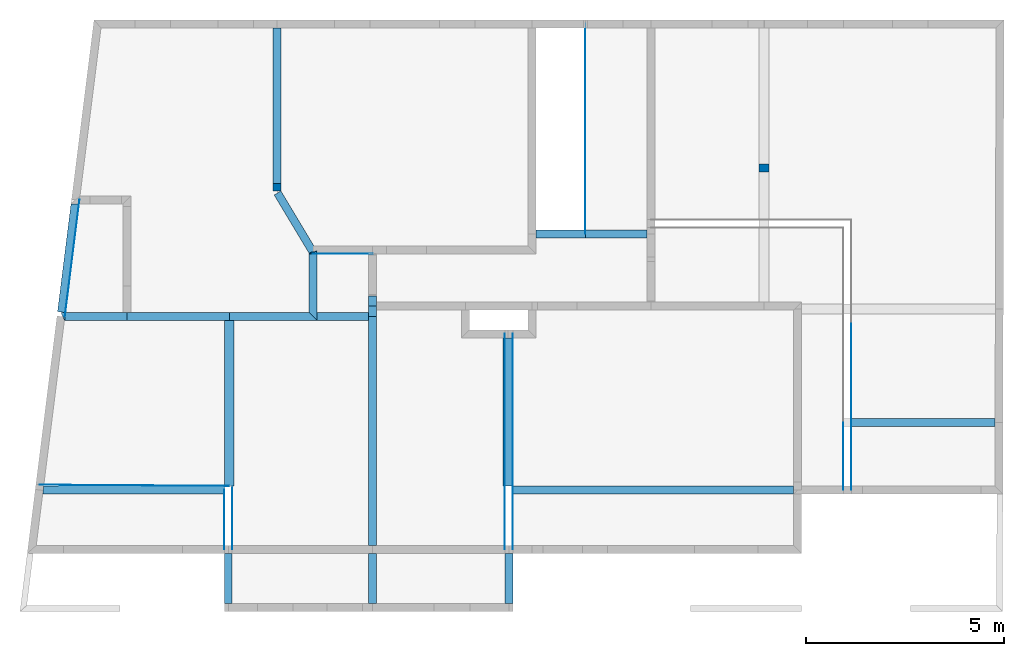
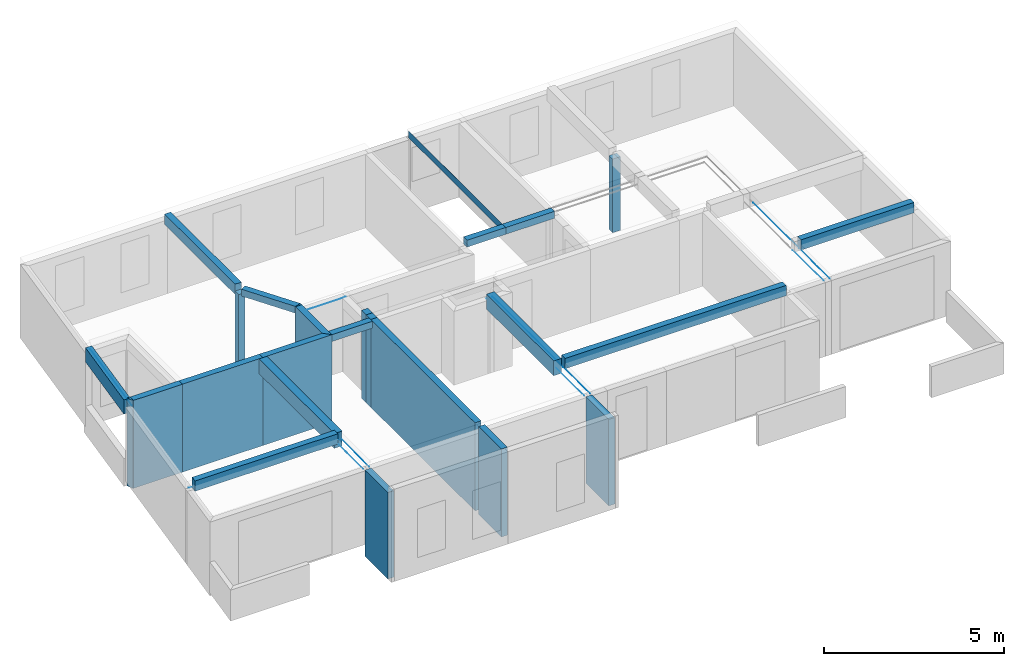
# One storey, part 1 of 8: 35 beams, 2 columns.
"""IFC2X3 building model written with IfcOpenShell, lengths in metres."""

from ifc_helpers import new_model, si_unit, direction, frame, origin_with_axes, origin_2d, place, context, subcontext, project, spatial, polyline, rectangle, outline, extrude, material, type_object, element, save


model = new_model("IFC2X3")

# Units and contexts
model_context = context("Model", 3, precision=0.0001, world=origin_with_axes(), true_north=direction((0.0, 1.0)))
plan_context = context("Plan", 2, precision=0.0001, world=origin_with_axes(), true_north=direction((0.0, 1.0)))
body_context = subcontext(model_context, "Body", "Model", "MODEL_VIEW")
ifc_project = project(units=[si_unit("MASSUNIT", "GRAM", prefix="KILO"), si_unit("AREAUNIT", "SQUARE_METRE"), si_unit("LENGTHUNIT", "METRE"), si_unit("VOLUMEUNIT", "CUBIC_METRE")], contexts=[plan_context, model_context])

# Site, building, storey
site_placement = place(None, origin_with_axes())
site = spatial("IfcSite", under=ifc_project, at=site_placement, Name="$", CompositionType="ELEMENT")
building_placement = place(site_placement, origin_with_axes())
building = spatial("IfcBuilding", under=site, at=building_placement, Name="Classeur ENS Ensemble", CompositionType="ELEMENT")
storey_placement = place(building_placement, frame((-20.30778888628, -1.812671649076, 3.3), z_axis=(0.0, 0.0, 1.0), x_axis=(1.0, 0.0, 0.0)))
storey = spatial("IfcBuildingStorey", under=building, at=storey_placement, Name="002 R+1", CompositionType="ELEMENT", Elevation=3.3)

# Columns
ifc_material = material(Name="Default material")
column_type = type_object("IfcColumnType", PredefinedType="COLUMN")
column_1_placement = place(storey_placement, frame((37.23321886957, -1.937325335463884, 0.0), z_axis=(0.0, 0.0, 1.0), x_axis=(1.0, 0.0, 0.0)))
element("IfcColumn", 1, at=column_1_placement, inside=storey, type_object=column_type, material=ifc_material, Name="Poteau BA", context=body_context, shape_type="SweptSolid", held_by="IfcProductRepresentation", body=[
    extrude(rectangle(XDim=0.25, YDim=0.2000000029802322, at=origin_2d()), origin_with_axes(), (0.0, 0.0, 1.0), 2.5),
])
column_2_placement = place(storey_placement, frame((24.94339579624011, -2.427468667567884, 0.0), z_axis=(0.0, 0.0, 1.0), x_axis=(1.0, 0.0, 0.0)))
element("IfcColumn", 2, at=column_2_placement, inside=storey, type_object=column_type, material=ifc_material, Name="Poteau BA", context=body_context, shape_type="SweptSolid", held_by="IfcProductRepresentation", body=[
    extrude(rectangle(XDim=0.2000000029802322, YDim=0.2000000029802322, at=origin_2d()), origin_with_axes(), (0.0, 0.0, 1.0), 2.5),
])

# Beams
beam_type = type_object("IfcBeamType", PredefinedType="BEAM")
beam_1_placement = place(storey_placement, frame((19.4901496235, -5.687325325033, -0.25), z_axis=(0.0, 0.0, 1.0), x_axis=(1.0, 0.0, 0.0)))
element("IfcBeam", 3, at=beam_1_placement, inside=storey, type_object=beam_type, material=ifc_material, Name="poutre voile BA 20 cm", context=body_context, shape_type="SweptSolid", held_by="IfcProductRepresentation", body=[
    extrude(outline(polyline([(0.0, 0.1000000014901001), (0.0, 0.1000000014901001), (0.0, 0.1000000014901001), (0.1007801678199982, 0.1000000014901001), (0.1007801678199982, 0.1000000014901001), (0.1007801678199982, 0.1000000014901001), (0.1007801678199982, -0.1000000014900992), (0.1007801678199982, -0.1000000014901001), (0.1007801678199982, -0.1000000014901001), (0.08826448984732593, -0.1000000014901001), (0.08826448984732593, -0.1000000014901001), (0.08826448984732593, -0.1000000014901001), (0.0, 0.1000000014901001)])), origin_with_axes(), (0.0, 0.0, 1.0), 2.980000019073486),
])
beam_2_placement = place(storey_placement, frame((25.85101575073, -5.687325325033, -0.25), z_axis=(0.0, 0.0, 1.0), x_axis=(8.485787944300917e-05, 0.9999999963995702, 0.0)))
element("IfcBeam", 4, at=beam_2_placement, inside=storey, type_object=beam_type, material=ifc_material, Name="poutre voile BA 20 cm", context=body_context, shape_type="SweptSolid", held_by="IfcProductRepresentation", body=[
    extrude(outline(polyline([(0.09999151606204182, 0.1000000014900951), (0.09999151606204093, 0.1000000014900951), (0.09999151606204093, 0.1000000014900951), (1.580000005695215, 0.1000000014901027), (1.580000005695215, 0.1000000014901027), (1.580000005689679, 0.1000000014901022), (1.580000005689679, -0.1000000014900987), (1.580000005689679, -0.1000000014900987), (1.580000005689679, -0.1000000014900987), (0.1000084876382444, -0.1000000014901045), (0.1000084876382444, -0.1000000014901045), (-0.09999151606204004, -0.1000000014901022), (0.09999151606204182, 0.1000000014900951)])), origin_with_axes(), (0.0, 0.0, 1.0), 2.980000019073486),
])
beam_3_placement = place(storey_placement, frame((27.35339579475, -13.03232532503, -0.25), z_axis=(0.0, 0.0, 1.0), x_axis=(0.0, 1.0, 0.0)))
element("IfcBeam", 5, at=beam_3_placement, inside=storey, type_object=beam_type, material=ifc_material, Name="poutre voile BA 20 cm", context=body_context, shape_type="SweptSolid", held_by="IfcProductRepresentation", body=[
    extrude(outline(polyline([(0.1000000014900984, 0.1000000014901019), (0.1000000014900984, 0.1000000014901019), (0.1000000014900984, 0.1000000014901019), (1.565000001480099, 0.1000000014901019), (1.565000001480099, 0.1000000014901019), (1.364999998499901, 0.1000000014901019), (1.364999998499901, -0.1000000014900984), (1.565000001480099, -0.1000000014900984), (1.565000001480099, -0.1000000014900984), (0.1000000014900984, -0.1000000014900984), (0.1000000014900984, -0.1000000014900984), (0.1000000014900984, -0.1000000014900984), (0.1000000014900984, 0.1000000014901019)])), origin_with_axes(), (0.0, 0.0, 1.0), 2.980000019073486),
])
beam_4_placement = place(storey_placement, frame((27.35339579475, -11.56732532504, -0.25), z_axis=(0.0, 0.0, 1.0), x_axis=(0.0, 1.0, 0.0)))
element("IfcBeam", 6, at=beam_4_placement, inside=storey, type_object=beam_type, material=ifc_material, Name="poutre voile BA 20 cm", context=body_context, shape_type="SweptSolid", held_by="IfcProductRepresentation", body=[
    extrude(outline(polyline([(0.1000000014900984, 0.1000000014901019), (-0.1000000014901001, 0.1000000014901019), (-0.1000000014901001, 0.1000000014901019), (5.779999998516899, 0.1000000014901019), (5.779999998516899, 0.1000000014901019), (5.880000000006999, 0.1000000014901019), (5.880000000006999, -0.1000000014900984), (5.880000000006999, -0.1000000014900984), (5.880000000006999, -0.1000000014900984), (-0.1000000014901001, -0.1000000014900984), (-0.1000000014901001, -0.1000000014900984), (0.1000000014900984, -0.1000000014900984), (0.1000000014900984, 0.1000000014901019)])), origin_with_axes(), (0.0, 0.0, 1.0), 2.980000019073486),
])
for number, where, z_axis, x_axis, name in (
    (7, (23.71339579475, -13.03232532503, -0.4000000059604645), (0.0, 0.0, 1.0), (0.0, 1.0, 0.0), "poutre voile BA 20 cm"),
    (8, (30.79339579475, -13.03232532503, -0.4000000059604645), (0.0, 0.0, 1.0), (0.0, 1.0, 0.0), "poutre voile BA 20 cm"),
):
    element("IfcBeam", number, at=place(storey_placement, frame(where, z_axis=z_axis, x_axis=x_axis)), inside=storey, type_object=beam_type, material=ifc_material, Name=name, context=body_context, shape_type="SweptSolid", held_by="IfcProductRepresentation", body=[
        extrude(outline(polyline([(0.1000000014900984, 0.1000000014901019), (0.1000000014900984, 0.1000000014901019), (0.1000000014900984, 0.1000000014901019), (1.364999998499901, 0.1000000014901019), (1.364999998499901, 0.1000000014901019), (1.364999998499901, 0.1000000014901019), (1.364999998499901, -0.1000000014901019), (1.364999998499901, -0.1000000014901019), (1.364999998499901, -0.1000000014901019), (0.1000000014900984, -0.1000000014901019), (0.1000000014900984, -0.1000000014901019), (0.1000000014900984, -0.1000000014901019), (0.1000000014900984, 0.1000000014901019)])), origin_with_axes(), (0.0, 0.0, 1.0), 2.930000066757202),
    ])
beam_5_placement = place(storey_placement, frame((19.59092979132, -5.687325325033, 2.5), z_axis=(0.0, 0.0, 1.0), x_axis=(0.1241879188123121, 0.9922587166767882, 0.0)))
element("IfcBeam", 9, at=beam_5_placement, inside=storey, type_object=beam_type, material=ifc_material, Name="poutre fictive 250", context=body_context, shape_type="SweptSolid", held_by="IfcProductRepresentation", body=[
    extrude(outline(polyline([(-8.721322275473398e-16, 0.001000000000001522), (-8.721322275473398e-16, 0.001000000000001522), (-8.721322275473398e-16, 0.001000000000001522), (2.962936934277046, 0.001000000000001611), (2.962936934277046, 0.001000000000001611), (2.962936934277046, 0.001000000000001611), (2.962936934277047, -0.000999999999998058), (2.962936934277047, -0.000999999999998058), (2.962936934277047, -0.000999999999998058), (4.309432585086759e-16, -0.0009999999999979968), (4.309432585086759e-16, -0.0009999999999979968), (4.309432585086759e-16, -0.0009999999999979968), (-8.721322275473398e-16, 0.001000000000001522)])), origin_with_axes(), (0.0, 0.0, 1.0), 0.001),
])
beam_6_placement = place(storey_placement, frame((19.59092979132, -5.687325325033, -0.25), z_axis=(0.0, 0.0, 1.0), x_axis=(1.0, 0.0, 0.0)))
element("IfcBeam", 10, at=beam_6_placement, inside=storey, type_object=beam_type, material=ifc_material, Name="poutre voile BA 20 cm", context=body_context, shape_type="SweptSolid", held_by="IfcProductRepresentation", body=[
    extrude(outline(polyline([(0.0, 0.1000000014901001), (0.0, 0.1000000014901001), (0.0, 0.1000000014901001), (1.563306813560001, 0.1000000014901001), (1.563306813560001, 0.1000000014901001), (1.563306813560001, 0.1000000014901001), (1.563306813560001, -0.1000000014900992), (1.563306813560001, -0.1000000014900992), (1.563306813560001, -0.1000000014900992), (0.0, -0.1000000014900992), (0.0, -0.1000000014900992), (0.0, -0.1000000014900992), (0.0, 0.1000000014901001)])), origin_with_axes(), (0.0, 0.0, 1.0), 2.980000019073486),
])
beam_7_placement = place(storey_placement, frame((21.15423660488, -5.687325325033, -0.25), z_axis=(0.0, 0.0, 1.0), x_axis=(1.0, 0.0, 0.0)))
element("IfcBeam", 11, at=beam_7_placement, inside=storey, type_object=beam_type, material=ifc_material, Name="poutre voile BA 20 cm", context=body_context, shape_type="SweptSolid", held_by="IfcProductRepresentation", body=[
    extrude(outline(polyline([(0.0, 0.1000000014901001), (0.0, 0.1000000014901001), (0.0, 0.1000000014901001), (2.584159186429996, 0.1000000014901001), (2.584159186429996, 0.1000000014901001), (2.584159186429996, 0.1000000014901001), (2.584159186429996, -0.1000000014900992), (2.459159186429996, -0.1000000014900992), (2.459159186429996, -0.1000000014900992), (0.0, -0.1000000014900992), (0.0, -0.1000000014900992), (0.0, -0.1000000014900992), (0.0, 0.1000000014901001)])), origin_with_axes(), (0.0, 0.0, 1.0), 2.980000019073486),
])
beam_8_placement = place(storey_placement, frame((19.50361394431, -5.579745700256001, 2.200000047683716), z_axis=(0.0, 0.0, 1.0), x_axis=(0.1241879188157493, 0.992258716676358, 0.0)))
element("IfcBeam", 12, at=beam_8_placement, inside=storey, type_object=beam_type, material=ifc_material, Name="poutre BA 20 x 48", context=body_context, shape_type="SweptSolid", held_by="IfcProductRepresentation", body=[
    extrude(outline(polyline([(4.371503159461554e-16, 0.100000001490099), (4.371503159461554e-16, 0.100000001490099), (4.371503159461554e-16, 0.100000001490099), (2.741222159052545, 0.1000000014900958), (2.741222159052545, 0.1000000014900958), (2.741222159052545, 0.1000000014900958), (2.766253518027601, -0.1000000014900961), (2.766253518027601, -0.1000000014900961), (2.766253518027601, -0.1000000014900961), (4.440892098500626e-16, -0.1000000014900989), (4.440892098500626e-16, -0.1000000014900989), (4.440892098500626e-16, -0.1000000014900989), (4.371503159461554e-16, 0.100000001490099)])), origin_with_axes(), (0.0, 0.0, 1.0), 0.4799999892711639),
])
beam_9_placement = place(storey_placement, frame((18.94209874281, -10.0662397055, 2.5), z_axis=(0.0, 0.0, 1.0), x_axis=(0.9999999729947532, -0.0002324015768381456, 0.0)))
element("IfcBeam", 13, at=beam_9_placement, inside=storey, type_object=beam_type, material=ifc_material, Name="poutre BA 20 x 35", context=body_context, shape_type="SweptSolid", held_by="IfcProductRepresentation", body=[
    extrude(outline(polyline([(0.1132693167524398, 0.1000000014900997), (0.1132693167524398, 0.1000000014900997), (0.1132693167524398, 0.1000000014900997), (4.671297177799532, 0.1000000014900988), (4.671297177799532, 0.1000000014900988), (4.671297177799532, 0.1000000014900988), (4.671297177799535, -0.1000000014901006), (4.671297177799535, -0.1000000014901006), (4.671297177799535, -0.1000000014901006), (0.08828516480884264, -0.1000000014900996), (0.08828516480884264, -0.1000000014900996), (0.08828516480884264, -0.1000000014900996), (0.1132693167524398, 0.1000000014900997)])), origin_with_axes(), (0.0, 0.0, 1.0), 0.3499999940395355),
])
beam_10_placement = place(storey_placement, frame((30.89339579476, -10.06732532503, 2.5), z_axis=(0.0, 0.0, 1.0), x_axis=(0.9999999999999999, 0.0, 0.0)))
element("IfcBeam", 14, at=beam_10_placement, inside=storey, type_object=beam_type, material=ifc_material, Name="poutre BA 20 x 35", context=body_context, shape_type="SweptSolid", held_by="IfcProductRepresentation", body=[
    extrude(outline(polyline([(0.0, 0.1000000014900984), (0.0, 0.1000000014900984), (0.0, 0.1000000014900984), (7.089999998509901, 0.1000000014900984), (7.089999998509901, 0.1000000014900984), (7.089999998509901, 0.1000000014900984), (7.089999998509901, -0.1000000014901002), (7.089999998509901, -0.1000000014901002), (7.089999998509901, -0.1000000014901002), (0.0, -0.1000000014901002), (0.0, -0.1000000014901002), (0.0, -0.1000000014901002), (0.0, 0.1000000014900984)])), origin_with_axes(), (0.0, 0.0, 1.0), 0.3499999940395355),
])
beam_11_placement = place(storey_placement, frame((23.61339579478, -11.56732532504, 2.5), z_axis=(0.0, 0.0, 1.0), x_axis=(-2.133333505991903e-10, 1.0, 0.0)))
element("IfcBeam", 15, at=beam_11_placement, inside=storey, type_object=beam_type, material=ifc_material, Name="poutre fictive 250", context=body_context, shape_type="SweptSolid", held_by="IfcProductRepresentation", body=[
    extrude(outline(polyline([(1.705298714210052e-16, 0.001000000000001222), (1.705298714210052e-16, 0.001000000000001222), (1.705298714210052e-16, 0.001000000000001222), (1.50000000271, 0.001000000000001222), (1.50000000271, 0.001000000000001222), (1.50000000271, 0.001000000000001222), (1.500000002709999, -0.001000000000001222), (1.500000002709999, -0.001000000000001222), (1.500000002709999, -0.001000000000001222), (-1.946886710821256e-15, -0.001000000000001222), (-1.946886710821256e-15, -0.001000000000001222), (-1.946886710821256e-15, -0.001000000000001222), (1.705298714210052e-16, 0.001000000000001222)])), origin_with_axes(), (0.0, 0.0, 1.0), 0.001),
])
beam_12_placement = place(storey_placement, frame((30.89339579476, -11.56732532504, 2.5), z_axis=(0.0, 0.0, 1.0), x_axis=(0.0, 1.0, 0.0)))
element("IfcBeam", 16, at=beam_12_placement, inside=storey, type_object=beam_type, material=ifc_material, Name="poutre fictive 250", context=body_context, shape_type="SweptSolid", held_by="IfcProductRepresentation", body=[
    extrude(outline(polyline([(0.0, 0.001000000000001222), (0.0, 0.001000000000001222), (0.0, 0.001000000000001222), (1.500000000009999, 0.001000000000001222), (1.500000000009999, 0.001000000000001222), (1.500000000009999, 0.001000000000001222), (1.500000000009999, -0.0009999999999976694), (1.500000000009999, -0.0009999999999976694), (1.500000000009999, -0.0009999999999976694), (0.0, -0.0009999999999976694), (0.0, -0.0009999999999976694), (0.0, -0.0009999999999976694), (0.0, 0.001000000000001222)])), origin_with_axes(), (0.0, 0.0, 1.0), 0.001),
])
beam_13_placement = place(storey_placement, frame((39.43648670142, -10.06732532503, 2.5), z_axis=(0.0, 0.0, 1.0), x_axis=(0.0, 1.0, 0.0)))
element("IfcBeam", 17, at=beam_13_placement, inside=storey, type_object=beam_type, material=ifc_material, Name="poutre fictive 250", context=body_context, shape_type="SweptSolid", held_by="IfcProductRepresentation", body=[
    extrude(outline(polyline([(0.0, 0.001000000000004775), (0.0, 0.001000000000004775), (0.0, 0.001000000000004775), (1.700043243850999, 0.001000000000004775), (1.700043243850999, 0.001000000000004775), (1.700043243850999, 0.001000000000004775), (1.700043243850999, -0.0009999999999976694), (1.700043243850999, -0.0009999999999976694), (1.700043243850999, -0.0009999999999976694), (0.0, -0.0009999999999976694), (0.0, -0.0009999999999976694), (0.0, -0.0009999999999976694), (0.0, 0.001000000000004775)])), origin_with_axes(), (0.0, 0.0, 1.0), 0.001),
])
beam_14_placement = place(storey_placement, frame((39.43648670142, -8.367282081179, 2.5), z_axis=(0.0, 0.0, 1.0), x_axis=(1.0, 0.0, 0.0)))
element("IfcBeam", 18, at=beam_14_placement, inside=storey, type_object=beam_type, material=ifc_material, Name="poutre BA 20 x 35", context=body_context, shape_type="SweptSolid", held_by="IfcProductRepresentation", body=[
    extrude(outline(polyline([(0.0, 0.1000000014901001), (0.0, 0.1000000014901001), (0.0, 0.1000000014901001), (3.6270389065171, 0.1000000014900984), (3.6270389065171, 0.1000000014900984), (3.6270389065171, 0.1000000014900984), (3.626530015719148, -0.1000000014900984), (3.626530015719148, -0.1000000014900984), (3.626530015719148, -0.1000000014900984), (0.0, -0.1000000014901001), (0.0, -0.1000000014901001), (0.0, -0.1000000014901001), (0.0, 0.1000000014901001)])), origin_with_axes(), (0.0, 0.0, 1.0), 0.3499999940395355),
])
beam_15_placement = place(storey_placement, frame((30.69339579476, -11.56732532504, 2.5), z_axis=(0.0, 0.0, 1.0), x_axis=(0.0, 1.0, 0.0)))
element("IfcBeam", 19, at=beam_15_placement, inside=storey, type_object=beam_type, material=ifc_material, Name="poutre fictive 250", context=body_context, shape_type="SweptSolid", held_by="IfcProductRepresentation", body=[
    extrude(outline(polyline([(0.0, 0.001000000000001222), (0.0, 0.001000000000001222), (0.0, 0.001000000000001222), (5.440000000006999, 0.001000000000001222), (5.440000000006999, 0.001000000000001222), (5.440000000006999, 0.001000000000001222), (5.440000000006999, -0.0009999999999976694), (5.440000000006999, -0.0009999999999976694), (5.440000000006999, -0.0009999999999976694), (0.0, -0.0009999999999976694), (0.0, -0.0009999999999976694), (0.0, -0.0009999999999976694), (0.0, 0.001000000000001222)])), origin_with_axes(), (0.0, 0.0, 1.0), 0.001),
])
beam_16_placement = place(storey_placement, frame((30.89339579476, -10.06732532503, 2.5), z_axis=(0.0, 0.0, 1.0), x_axis=(0.0, 1.0, 0.0)))
element("IfcBeam", 20, at=beam_16_placement, inside=storey, type_object=beam_type, material=ifc_material, Name="poutre fictive 250", context=body_context, shape_type="SweptSolid", held_by="IfcProductRepresentation", body=[
    extrude(outline(polyline([(0.0, 0.001000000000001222), (0.0, 0.001000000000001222), (0.0, 0.001000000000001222), (3.939999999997, 0.001000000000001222), (3.939999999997, 0.001000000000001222), (3.939999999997, 0.001000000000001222), (3.939999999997, -0.0009999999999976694), (3.939999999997, -0.0009999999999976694), (3.939999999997, -0.0009999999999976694), (0.0, -0.0009999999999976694), (0.0, -0.0009999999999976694), (0.0, -0.0009999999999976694), (0.0, 0.001000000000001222)])), origin_with_axes(), (0.0, 0.0, 1.0), 0.001),
])
beam_17_placement = place(storey_placement, frame((23.81339579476, -11.56732532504, 2.5), z_axis=(0.0, 0.0, 1.0), x_axis=(0.0, 1.0, 0.0)))
element("IfcBeam", 21, at=beam_17_placement, inside=storey, type_object=beam_type, material=ifc_material, Name="poutre fictive 250", context=body_context, shape_type="SweptSolid", held_by="IfcProductRepresentation", body=[
    extrude(outline(polyline([(0.0, 0.0009999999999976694), (0.0, 0.0009999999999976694), (0.0, 0.0009999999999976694), (1.600000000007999, 0.0009999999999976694), (1.600000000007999, 0.0009999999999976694), (1.600000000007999, 0.0009999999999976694), (1.600000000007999, -0.001000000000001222), (1.600000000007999, -0.001000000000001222), (1.600000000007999, -0.001000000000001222), (0.0, -0.001000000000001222), (0.0, -0.001000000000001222), (0.0, -0.001000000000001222), (0.0, 0.0009999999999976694)])), origin_with_axes(), (0.0, 0.0, 1.0), 0.001),
])
beam_18_placement = place(storey_placement, frame((18.9581646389, -9.937873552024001, 2.5), z_axis=(0.0, 0.0, 1.0), x_axis=(0.9999816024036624, -0.006065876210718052, 0.0)))
element("IfcBeam", 22, at=beam_18_placement, inside=storey, type_object=beam_type, material=ifc_material, Name="poutre fictive 250", context=body_context, shape_type="SweptSolid", held_by="IfcProductRepresentation", body=[
    extrude(outline(polyline([(3.052991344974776e-15, 0.0009999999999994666), (3.052991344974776e-15, 0.0009999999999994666), (3.052991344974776e-15, 0.0009999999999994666), (4.780319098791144, 0.0009999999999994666), (4.780319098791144, 0.0009999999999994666), (4.780319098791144, 0.0009999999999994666), (4.780319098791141, -0.0009999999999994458), (4.780319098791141, -0.0009999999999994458), (4.780319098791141, -0.0009999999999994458), (-3.063766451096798e-15, -0.0009999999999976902), (-3.063766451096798e-15, -0.0009999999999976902), (-3.063766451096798e-15, -0.0009999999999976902), (3.052991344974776e-15, 0.0009999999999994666)])), origin_with_axes(), (0.0, 0.0, 1.0), 0.001),
])
beam_19_placement = place(storey_placement, frame((39.23648670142, -10.06732532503, 2.5), z_axis=(0.0, 0.0, 1.0), x_axis=(0.0, 1.0, 0.0)))
element("IfcBeam", 23, at=beam_19_placement, inside=storey, type_object=beam_type, material=ifc_material, Name="poutre fictive 250", context=body_context, shape_type="SweptSolid", held_by="IfcProductRepresentation", body=[
    extrude(outline(polyline([(0.0, 0.0009999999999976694), (0.0, 0.0009999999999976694), (0.0, 0.0009999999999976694), (1.700043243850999, 0.0009999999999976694), (1.700043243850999, 0.0009999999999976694), (1.700043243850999, 0.0009999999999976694), (1.700043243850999, -0.0009999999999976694), (1.700043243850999, -0.0009999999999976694), (1.700043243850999, -0.0009999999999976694), (0.0, -0.0009999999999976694), (0.0, -0.0009999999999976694), (0.0, -0.0009999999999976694), (0.0, 0.0009999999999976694)])), origin_with_axes(), (0.0, 0.0, 1.0), 0.001),
])
beam_20_placement = place(storey_placement, frame((24.94339579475, -2.327468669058, 2.380000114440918), z_axis=(0.0, 0.0, 1.0), x_axis=(0.0, 1.0, 0.0)))
element("IfcBeam", 24, at=beam_20_placement, inside=storey, type_object=beam_type, material=ifc_material, Name="poutre BA 25 x 50", context=body_context, shape_type="SweptSolid", held_by="IfcProductRepresentation", body=[
    extrude(outline(polyline([(0.0, 0.1000000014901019), (0.0, 0.1000000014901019), (0.0, 0.1000000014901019), (3.9201433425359, 0.1000000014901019), (3.9201433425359, 0.1000000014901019), (3.9201433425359, 0.1000000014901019), (3.9201433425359, -0.1000000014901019), (3.9201433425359, -0.1000000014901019), (3.9201433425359, -0.1000000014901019), (0.0, -0.1000000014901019), (0.0, -0.1000000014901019), (0.0, -0.1000000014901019), (0.0, 0.1000000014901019)])), origin_with_axes(), (0.0, 0.0, 1.0), 0.3499999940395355),
])
beam_21_placement = place(storey_placement, frame((24.95763967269, -2.573906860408, 2.5), z_axis=(0.0, 0.0, 1.0), x_axis=(0.5143819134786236, -0.8575612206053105, 0.0)))
element("IfcBeam", 25, at=beam_21_placement, inside=storey, type_object=beam_type, material=ifc_material, Name="BN 23", context=body_context, shape_type="SweptSolid", held_by="IfcProductRepresentation", body=[
    extrude(outline(polyline([(-1.214306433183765e-15, 0.1000000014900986), (-1.214306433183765e-15, 0.1000000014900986), (-1.214306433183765e-15, 0.1000000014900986), (1.764758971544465, 0.100000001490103), (1.764758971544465, 0.100000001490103), (1.764758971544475, 0.1000000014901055), (1.709367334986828, -0.1000000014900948), (1.709367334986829, -0.1000000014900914), (1.709367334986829, -0.1000000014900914), (-9.922618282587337e-16, -0.1000000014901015), (-9.922618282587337e-16, -0.1000000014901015), (-9.922618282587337e-16, -0.1000000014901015), (-1.214306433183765e-15, 0.1000000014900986)])), origin_with_axes(), (0.0, 0.0, 1.0), 0.2300000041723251),
])
beam_22_placement = place(storey_placement, frame((39.43648670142, -8.367282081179, 2.5), z_axis=(0.0, 0.0, 1.0), x_axis=(0.0, 1.0, 0.0)))
element("IfcBeam", 26, at=beam_22_placement, inside=storey, type_object=beam_type, material=ifc_material, Name="poutre fictive 250", context=body_context, shape_type="SweptSolid", held_by="IfcProductRepresentation", body=[
    extrude(outline(polyline([(0.0, 0.001000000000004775), (0.0, 0.001000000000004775), (0.0, 0.001000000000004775), (2.540404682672, 0.001000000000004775), (2.540404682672, 0.001000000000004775), (2.540404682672, 0.001000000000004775), (2.540404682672, -0.0009999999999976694), (2.540404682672, -0.0009999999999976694), (2.540404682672, -0.0009999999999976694), (0.0, -0.0009999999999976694), (0.0, -0.0009999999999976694), (0.0, -0.0009999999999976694), (0.0, 0.001000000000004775)])), origin_with_axes(), (0.0, 0.0, 1.0), 0.001),
])
beam_23_placement = place(storey_placement, frame((31.38339579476, -3.607325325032, 2.5), z_axis=(0.0, 0.0, 1.0), x_axis=(1.0, 0.0, 0.0)))
element("IfcBeam", 27, at=beam_23_placement, inside=storey, type_object=beam_type, material=ifc_material, Name="BN 23", context=body_context, shape_type="SweptSolid", held_by="IfcProductRepresentation", body=[
    extrude(outline(polyline([(0.1000000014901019, 0.1000000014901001), (0.1000000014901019, 0.1000000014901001), (0.1000000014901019, 0.1000000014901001), (1.342573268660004, 0.1000000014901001), (1.342573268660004, 0.1000000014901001), (1.342573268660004, 0.1000000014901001), (1.342573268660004, -0.1000000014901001), (1.342573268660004, -0.1000000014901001), (1.342573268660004, -0.1000000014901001), (0.1000000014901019, -0.1000000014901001), (0.1000000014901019, -0.1000000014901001), (0.1000000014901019, -0.1000000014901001), (0.1000000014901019, 0.1000000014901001)])), origin_with_axes(), (0.0, 0.0, 1.0), 0.2300000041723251),
])
beam_24_placement = place(storey_placement, frame((27.35339579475, -5.427325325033, -0.25), z_axis=(0.0, 0.0, 1.0), x_axis=(0.0, 1.0, 0.0)))
element("IfcBeam", 28, at=beam_24_placement, inside=storey, type_object=beam_type, material=ifc_material, Name="poutre voile BA 20 cm", context=body_context, shape_type="SweptSolid", held_by="IfcProductRepresentation", body=[
    extrude(outline(polyline([(0.0, 0.1000000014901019), (0.0, 0.1000000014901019), (0.0, 0.1000000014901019), (0.2603052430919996, 0.1000000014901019), (0.2603052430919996, 0.1000000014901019), (0.2603052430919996, 0.1000000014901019), (0.2603052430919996, -0.1000000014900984), (0.2603052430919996, -0.1000000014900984), (0.2603052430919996, -0.1000000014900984), (0.0, -0.1000000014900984), (0.0, -0.1000000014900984), (0.0, -0.1000000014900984), (0.0, 0.1000000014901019)])), origin_with_axes(), (0.0, 0.0, 1.0), 2.980000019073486),
])
beam_25_placement = place(storey_placement, frame((32.72596906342, -3.607325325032, 2.5), z_axis=(0.0, 0.0, 1.0), x_axis=(1.754705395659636e-10, 1.0, 0.0)))
element("IfcBeam", 29, at=beam_25_placement, inside=storey, type_object=beam_type, material=ifc_material, Name="Poutre auto", context=body_context, shape_type="SweptSolid", held_by="IfcProductRepresentation", body=[
    extrude(outline(polyline([(-5.530167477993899e-17, 0.0009999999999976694), (-5.530167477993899e-17, 0.0009999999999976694), (-5.530167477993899e-17, 0.0009999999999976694), (5.3, 0.0009999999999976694), (5.3, 0.0009999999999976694), (5.3, 0.0009999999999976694), (5.300000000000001, -0.001000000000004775), (5.300000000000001, -0.001000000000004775), (5.300000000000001, -0.001000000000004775), (5.530167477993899e-17, -0.0009999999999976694), (5.530167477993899e-17, -0.0009999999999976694), (5.530167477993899e-17, -0.0009999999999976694), (-5.530167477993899e-17, 0.0009999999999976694)])), origin_with_axes(), (0.0, 0.0, 1.0), 0.2300000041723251),
])
beam_26_placement = place(storey_placement, frame((32.72596906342, -3.607325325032, 2.5), z_axis=(0.0, 0.0, 1.0), x_axis=(1.0, 0.0, 0.0)))
element("IfcBeam", 30, at=beam_26_placement, inside=storey, type_object=beam_type, material=ifc_material, Name="BN 23", context=body_context, shape_type="SweptSolid", held_by="IfcProductRepresentation", body=[
    extrude(outline(polyline([(0.0, 0.1000000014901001), (0.0, 0.1000000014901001), (0.0, 0.1000000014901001), (1.557426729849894, 0.1000000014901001), (1.557426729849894, 0.1000000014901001), (1.557426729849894, 0.1000000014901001), (1.557426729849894, -0.1000000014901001), (1.557426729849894, -0.1000000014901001), (1.557426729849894, -0.1000000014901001), (0.0, -0.1000000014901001), (0.0, -0.1000000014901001), (0.0, -0.1000000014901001), (0.0, 0.1000000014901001)])), origin_with_axes(), (0.0, 0.0, 1.0), 0.2300000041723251),
])
beam_27_placement = place(storey_placement, frame((25.85114982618, -4.107325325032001, 2.5), z_axis=(0.0, 0.0, 1.0), x_axis=(1.0, 0.0, 0.0)))
element("IfcBeam", 31, at=beam_27_placement, inside=storey, type_object=beam_type, material=ifc_material, Name="poutre fictive 250", context=body_context, shape_type="SweptSolid", held_by="IfcProductRepresentation", body=[
    extrude(outline(polyline([(0.0, 0.001000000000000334), (0.0, 0.001000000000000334), (0.0, 0.001000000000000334), (1.502245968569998, 0.001000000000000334), (1.502245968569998, 0.001000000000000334), (1.502245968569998, 0.001000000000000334), (1.502245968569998, -0.0009999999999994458), (1.502245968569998, -0.0009999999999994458), (1.502245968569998, -0.0009999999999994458), (0.0, -0.0009999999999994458), (0.0, -0.0009999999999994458), (0.0, -0.0009999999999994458), (0.0, 0.001000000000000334)])), origin_with_axes(), (0.0, 0.0, 1.0), 0.001),
])
beam_28_placement = place(storey_placement, frame((25.85114982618, -4.107325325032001, -0.25), z_axis=(0.0, 0.0, 1.0), x_axis=(8.485793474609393e-05, 0.9999999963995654, 0.0)))
element("IfcBeam", 32, at=beam_28_placement, inside=storey, type_object=beam_type, material=ifc_material, Name="poutre voile BA 20 cm", context=body_context, shape_type="SweptSolid", held_by="IfcProductRepresentation", body=[
    extrude(outline(polyline([(7.180769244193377e-15, 0.1000000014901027), (-5.529723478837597e-12, 0.1000000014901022), (-5.529723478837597e-12, 0.1000000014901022), (0.01608464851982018, 0.1000000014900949), (0.01608464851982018, 0.1000000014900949), (0.01608464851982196, 0.1000000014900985), (0.07147628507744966, -0.1000000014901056), (0.07147628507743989, -0.1000000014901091), (0.07147628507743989, -0.1000000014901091), (-6.292892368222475e-15, -0.1000000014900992), (-6.292892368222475e-15, -0.1000000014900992), (-6.292892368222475e-15, -0.1000000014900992), (7.180769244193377e-15, 0.1000000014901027)])), origin_with_axes(), (0.0, 0.0, 1.0), 2.980000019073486),
])
beam_29_placement = place(storey_placement, frame((25.85101575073, -5.687325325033, 2.5), z_axis=(0.0, 0.0, 1.0), x_axis=(1.0, 0.0, 0.0)))
element("IfcBeam", 33, at=beam_29_placement, inside=storey, type_object=beam_type, material=ifc_material, Name="BN 23", context=body_context, shape_type="SweptSolid", held_by="IfcProductRepresentation", body=[
    extrude(outline(polyline([(0.1000084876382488, 0.1000000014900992), (0.1000084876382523, 0.1000000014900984), (0.1000084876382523, 0.1000000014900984), (1.402380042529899, 0.1000000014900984), (1.402380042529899, 0.1000000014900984), (1.402380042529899, 0.1000000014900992), (1.402380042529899, -0.1000000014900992), (1.402380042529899, -0.1000000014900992), (1.402380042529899, -0.1000000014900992), (0.09999151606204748, -0.1000000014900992), (0.09999151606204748, -0.1000000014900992), (0.09999151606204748, -0.1000000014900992), (0.1000084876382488, 0.1000000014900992)])), origin_with_axes(), (0.0, 0.0, 1.0), 0.2300000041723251),
])
beam_30_placement = place(storey_placement, frame((27.35339579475, -5.687325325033, -0.25), z_axis=(0.0, 0.0, 1.0), x_axis=(0.0, 1.0, 0.0)))
element("IfcBeam", 34, at=beam_30_placement, inside=storey, type_object=beam_type, material=ifc_material, Name="poutre voile BA 20 cm", context=body_context, shape_type="SweptSolid", held_by="IfcProductRepresentation", body=[
    extrude(outline(polyline([(0.0, 0.1000000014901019), (0.1000000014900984, 0.1000000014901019), (0.1000000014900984, 0.1000000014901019), (0.2599999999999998, 0.1000000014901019), (0.2599999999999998, 0.1000000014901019), (0.2599999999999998, 0.1000000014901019), (0.2599999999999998, -0.1000000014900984), (0.2599999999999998, -0.1000000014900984), (0.2599999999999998, -0.1000000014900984), (0.0, -0.1000000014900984), (0.0, -0.1000000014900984), (0.0, -0.1000000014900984), (0.0, 0.1000000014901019)])), origin_with_axes(), (0.0, 0.0, 1.0), 2.980000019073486),
])
beam_31_placement = place(storey_placement, frame((23.73839579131, -9.966870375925, 2.230000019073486), z_axis=(0.0, 0.0, 1.0), x_axis=(0.0, 1.0, 0.0)))
element("IfcBeam", 35, at=beam_31_placement, inside=storey, type_object=beam_type, material=ifc_material, Name="poutre BA 25 x 50", context=body_context, shape_type="SweptSolid", held_by="IfcProductRepresentation", body=[
    extrude(outline(polyline([(0.0, 0.125), (0.0, 0.125), (0.0, 0.125), (4.1795450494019, 0.125), (4.1795450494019, 0.125), (4.1795450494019, 0.125), (4.1795450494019, -0.125), (4.1795450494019, -0.125), (4.1795450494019, -0.125), (0.0, -0.125), (0.0, -0.125), (0.0, -0.125), (0.0, 0.125)])), origin_with_axes(), (0.0, 0.0, 1.0), 0.5),
])
beam_32_placement = place(storey_placement, frame((23.73839579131, -5.687325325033, -0.25), z_axis=(0.0, 0.0, 1.0), x_axis=(1.0, 0.0, 0.0)))
element("IfcBeam", 36, at=beam_32_placement, inside=storey, type_object=beam_type, material=ifc_material, Name="poutre voile BA 20 cm", context=body_context, shape_type="SweptSolid", held_by="IfcProductRepresentation", body=[
    extrude(outline(polyline([(0.0, 0.1000000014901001), (0.0, 0.1000000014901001), (0.0, 0.1000000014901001), (2.012628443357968, 0.1000000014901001), (2.012628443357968, 0.1000000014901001), (2.012628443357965, 0.1000000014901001), (2.212611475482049, -0.1000000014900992), (2.212611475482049, -0.1000000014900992), (2.212611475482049, -0.1000000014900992), (0.125, -0.1000000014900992), (0.125, -0.1000000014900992), (0.0, -0.1000000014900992), (0.0, 0.1000000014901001)])), origin_with_axes(), (0.0, 0.0, 1.0), 2.980000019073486),
])
beam_33_placement = place(storey_placement, frame((30.76839579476, -9.96732532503, 2.230000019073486), z_axis=(0.0, 0.0, 1.0), x_axis=(0.0, 1.0, 0.0)))
element("IfcBeam", 37, at=beam_33_placement, inside=storey, type_object=beam_type, material=ifc_material, Name="poutre BA 25 x 50", context=body_context, shape_type="SweptSolid", held_by="IfcProductRepresentation", body=[
    extrude(outline(polyline([(0.0, 0.125), (0.0, 0.125), (0.0, 0.125), (3.7399999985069, 0.125), (3.7399999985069, 0.125), (3.7399999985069, 0.125), (3.7399999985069, -0.125), (3.7399999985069, -0.125), (3.7399999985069, -0.125), (0.0, -0.125), (0.0, -0.125), (0.0, -0.125), (0.0, 0.125)])), origin_with_axes(), (0.0, 0.0, 1.0), 0.5),
])

save(model, "model.ifc")
